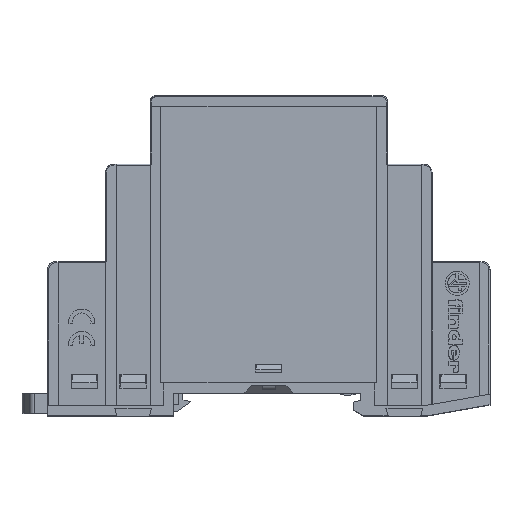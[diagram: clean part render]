
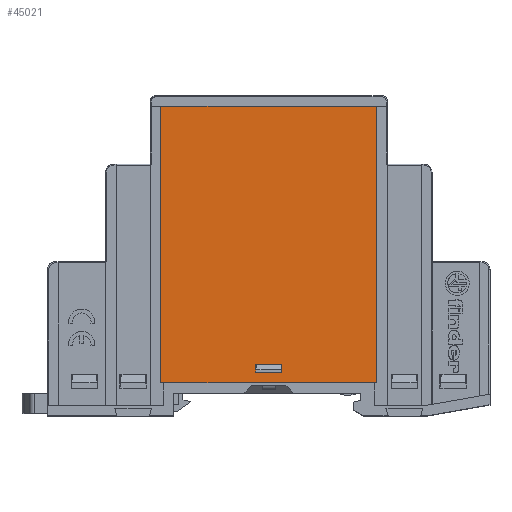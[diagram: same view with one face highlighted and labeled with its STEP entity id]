
A CAD part, top view. The second image highlights one B-rep face of the part: STEP entity #45021.
In plain terms, the highlighted planar face has unit normal (0, 0, -1).
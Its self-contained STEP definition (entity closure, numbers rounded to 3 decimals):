
#10289=ORIENTED_EDGE('',*,*,#18647,.F.);
#10290=ORIENTED_EDGE('',*,*,#17775,.T.);
#10291=ORIENTED_EDGE('',*,*,#18646,.T.);
#10292=ORIENTED_EDGE('',*,*,#18648,.T.);
#10293=ORIENTED_EDGE('',*,*,#17817,.F.);
#10294=ORIENTED_EDGE('',*,*,#17815,.T.);
#10295=ORIENTED_EDGE('',*,*,#18649,.T.);
#10296=ORIENTED_EDGE('',*,*,#18650,.T.);
#17775=EDGE_CURVE('',#23353,#23366,#28923,.T.);
#17815=EDGE_CURVE('',#23400,#23404,#28962,.T.);
#17817=EDGE_CURVE('',#23400,#23406,#28964,.T.);
#18646=EDGE_CURVE('',#23366,#24027,#29661,.T.);
#18647=EDGE_CURVE('',#23353,#24028,#29662,.T.);
#18648=EDGE_CURVE('',#24027,#24028,#29663,.T.);
#18649=EDGE_CURVE('',#23404,#24029,#29664,.T.);
#18650=EDGE_CURVE('',#24029,#23406,#29665,.T.);
#23353=VERTEX_POINT('',#76858);
#23366=VERTEX_POINT('',#76884);
#23400=VERTEX_POINT('',#76965);
#23404=VERTEX_POINT('',#76973);
#23406=VERTEX_POINT('',#76979);
#24027=VERTEX_POINT('',#79389);
#24028=VERTEX_POINT('',#79393);
#24029=VERTEX_POINT('',#79396);
#28923=LINE('',#76885,#35026);
#28962=LINE('',#76974,#35065);
#28964=LINE('',#76978,#35067);
#29661=LINE('',#79390,#35764);
#29662=LINE('',#79392,#35765);
#29663=LINE('',#79394,#35766);
#29664=LINE('',#79395,#35767);
#29665=LINE('',#79397,#35768);
#35026=VECTOR('',#62072,1000.);
#35065=VECTOR('',#62127,1000.);
#35067=VECTOR('',#62131,1000.);
#35764=VECTOR('',#63402,1000.);
#35765=VECTOR('',#63405,1000.);
#35766=VECTOR('',#63406,1000.);
#35767=VECTOR('',#63407,1000.);
#35768=VECTOR('',#63408,1000.);
#38610=EDGE_LOOP('',(#10289,#10290,#10291,#10292));
#38611=EDGE_LOOP('',(#10293,#10294,#10295,#10296));
#40910=FACE_BOUND('',#38610,.T.);
#40911=FACE_BOUND('',#38611,.T.);
#42917=PLANE('',#53834);
#45021=ADVANCED_FACE('',(#40910,#40911),#42917,.F.);
#53834=AXIS2_PLACEMENT_3D('',#79391,#63403,#63404);
#62072=DIRECTION('',(1.,0.,0.));
#62127=DIRECTION('',(-1.,0.,0.));
#62131=DIRECTION('',(0.,-1.,0.));
#63402=DIRECTION('',(0.,-1.,0.));
#63403=DIRECTION('',(0.,0.,1.));
#63404=DIRECTION('',(0.,1.,0.));
#63405=DIRECTION('',(0.,-1.,0.));
#63406=DIRECTION('',(-1.,0.,0.));
#63407=DIRECTION('',(0.,-1.,0.));
#63408=DIRECTION('',(1.,0.,0.));
#76858=CARTESIAN_POINT('',(-20.5,5.5,-50.));
#76884=CARTESIAN_POINT('',(20.5,5.5,-50.));
#76885=CARTESIAN_POINT('',(-20.5,5.5,-50.));
#76965=CARTESIAN_POINT('',(2.5,-43.5,-50.));
#76973=CARTESIAN_POINT('',(-2.5,-43.5,-50.));
#76974=CARTESIAN_POINT('',(2.5,-43.5,-50.));
#76978=CARTESIAN_POINT('',(2.5,-43.5,-50.));
#76979=CARTESIAN_POINT('',(2.5,-45.,-50.));
#79389=CARTESIAN_POINT('',(20.5,-47.,-50.));
#79390=CARTESIAN_POINT('',(20.5,5.5,-50.));
#79391=CARTESIAN_POINT('',(-20.501,-47.001,-50.));
#79392=CARTESIAN_POINT('',(-20.5,5.5,-50.));
#79393=CARTESIAN_POINT('',(-20.5,-47.,-50.));
#79394=CARTESIAN_POINT('',(20.5,-47.,-50.));
#79395=CARTESIAN_POINT('',(-2.5,-43.5,-50.));
#79396=CARTESIAN_POINT('',(-2.5,-45.,-50.));
#79397=CARTESIAN_POINT('',(-2.5,-45.,-50.));
